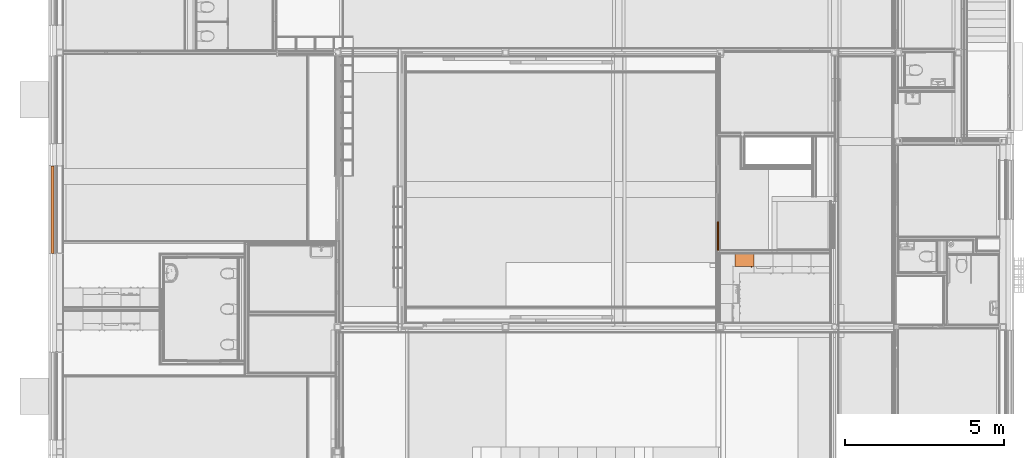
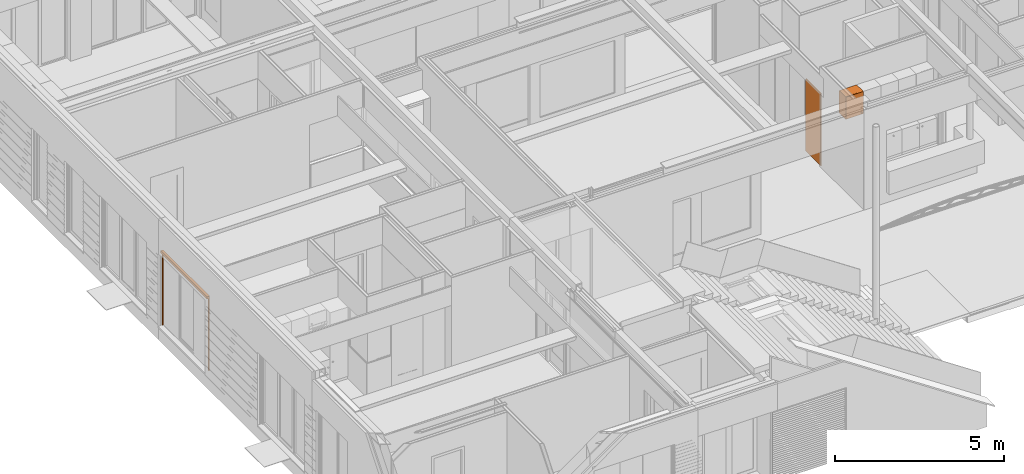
# One storey, part 130 of 165: 3 proxies.
"""IFC2X3 building model written with IfcOpenShell, lengths in millimetres."""

from ifc_helpers import new_model, entity, si_unit, converted_unit, derived_unit, money_unit, direction, frame, origin_with_axes, place, context, subcontext, project, spatial, open_shell, faceted_brep, surface_model, source, transform, mapped, type_object, type_shapes, element, save


model = new_model("IFC2X3")

# Units and contexts
model_context = context("Model", 3, precision=0.01, world=origin_with_axes(), true_north=direction((0.0, 1.0)))
body_context = subcontext(model_context, "Body", "Model", "MODEL_VIEW")
ifc_project = project(units=[si_unit("LENGTHUNIT", "METRE", prefix="MILLI"), si_unit("AREAUNIT", "SQUARE_METRE"), si_unit("VOLUMEUNIT", "CUBIC_METRE"), converted_unit("PLANEANGLEUNIT", "DEGREE", entity("IfcPlaneAngleMeasure", 0.0174532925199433), si_unit("PLANEANGLEUNIT", "RADIAN"), dimensions=[0, 0, 0, 0, 0, 0, 0]), money_unit("EUR"), converted_unit("TIMEUNIT", "Year", entity("IfcTimeMeasure", 31556926.0), si_unit("TIMEUNIT", "SECOND"), dimensions=[0, 0, 1, 0, 0, 0, 0]), si_unit("MASSUNIT", "GRAM", prefix="KILO"), si_unit("THERMODYNAMICTEMPERATUREUNIT", "DEGREE_CELSIUS"), si_unit("LUMINOUSINTENSITYUNIT", "LUMEN"), si_unit("ENERGYUNIT", "JOULE", prefix="MEGA"), derived_unit("THERMALCONDUCTANCEUNIT", [(si_unit("POWERUNIT", "WATT"), 1), (si_unit("LENGTHUNIT", "METRE"), -1), (si_unit("THERMODYNAMICTEMPERATUREUNIT", "KELVIN"), -1)]), derived_unit("SPECIFICHEATCAPACITYUNIT", [(si_unit("ENERGYUNIT", "JOULE"), 1), (si_unit("MASSUNIT", "GRAM", prefix="KILO"), -1), (si_unit("THERMODYNAMICTEMPERATUREUNIT", "KELVIN"), -1)]), derived_unit("MASSDENSITYUNIT", [(si_unit("MASSUNIT", "GRAM", prefix="KILO"), 1), (si_unit("VOLUMEUNIT", "CUBIC_METRE"), -1)])], contexts=[model_context])

# Site, building, storey
site_placement = place(None, origin_with_axes())
site = spatial("IfcSite", under=ifc_project, at=site_placement, Name="Site", CompositionType="ELEMENT")
building_placement = place(site_placement, origin_with_axes())
building = spatial("IfcBuilding", under=site, at=building_placement, Name="Naam gebouw", CompositionType="ELEMENT")
storey_placement = place(building_placement, origin_with_axes())
storey = spatial("IfcBuildingStorey", under=building, at=storey_placement, Name="Begane grond", CompositionType="ELEMENT", Elevation=0.0)

# Proxies
building_element_proxy_type_1 = type_object("IfcBuildingElementProxyType", Name="gevelbekleding", PredefinedType="NOTDEFINED")
shared_shape_1 = source(origin_with_axes(), body_context, "Body", "Brep", [
    faceted_brep([(445.0, 0.0, 0.0), (445.0, -35.0, 0.0), (440.0, -35.0, 0.0), (440.0, 0.0, 0.0), (445.0, 0.0, 2600.0), (445.0, -35.0, 2600.0), (440.0, -35.0, 2600.0), (440.0, 0.0, 2600.0)], [[[0, 1, 2, 3]], [[4, 5, 1, 0]], [[1, 5, 6, 2]], [[3, 2, 6, 7]], [[0, 3, 7, 4]], [[7, 6, 5, 4]]]),
    faceted_brep([(-445.0, 0.0, 0.0), (-445.0, -35.0, 0.0), (-445.0, -35.0, 2600.0), (-445.0, 0.0, 2600.0), (-440.0, 0.0, 0.0), (-440.0, -35.0, 0.0), (-440.0, -35.0, 2600.0), (-440.0, 0.0, 2600.0)], [[[0, 1, 2, 3]], [[4, 5, 1, 0]], [[1, 5, 6, 2]], [[3, 2, 6, 7]], [[0, 3, 7, 4]], [[7, 6, 5, 4]]]),
    faceted_brep([(445.0, 0.0, 0.0), (445.0, -35.0, 0.0), (-445.0, -35.0, 0.0), (-445.0, 0.0, 0.0), (445.0, 0.0, 2600.0), (445.0, -35.0, 2600.0), (-445.0, -35.0, 2600.0), (-445.0, 0.0, 2600.0)], [[[0, 1, 2, 3]], [[4, 5, 1, 0]], [[1, 5, 6, 2]], [[3, 2, 6, 7]], [[0, 3, 7, 4]], [[7, 6, 5, 4]]]),
])
type_shapes(building_element_proxy_type_1, [shared_shape_1])
proxy_1_placement = place(storey_placement, frame((20774.99906281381, 13229.99824205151, 0.0), z_axis=(0.0, 0.0, 1.0), x_axis=(0.0, 1.0, 0.0)))
element("IfcBuildingElementProxy", 1, at=proxy_1_placement, inside=storey, type_object=building_element_proxy_type_1, Name="_-", context=body_context, shape_type="MappedRepresentation", body=[
    mapped(shared_shape_1, transform((445.0000000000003, -35.00000000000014, 0.0))),
])
building_element_proxy_type_2 = type_object("IfcBuildingElementProxyType", Name="Bovenkast recht 26", PredefinedType="NOTDEFINED")
shared_shape_2 = source(origin_with_axes(), body_context, "Body", "Brep", [
    faceted_brep([(18.0, -380.0, 1891.0), (582.0, -380.0, 1891.0), (582.0, -380.0, 1909.0), (18.0, -380.0, 1909.0), (18.0, -18.0, 1891.0), (582.0, -18.0, 1891.0), (582.0, -18.0, 1909.0), (18.0, -18.0, 1909.0)], [[[0, 1, 2, 3]], [[0, 4, 5, 1]], [[1, 5, 6, 2]], [[3, 2, 6, 7]], [[4, 0, 3, 7]], [[5, 4, 7, 6]]]),
    faceted_brep([(531.8176930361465, -398.0, 1570.916221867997), (531.2763114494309, -398.0, 1568.895758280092), (530.3923048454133, -398.0, 1567.0), (529.1925333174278, -398.0, 1565.286548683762), (527.7134513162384, -398.0, 1563.807466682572), (526.0, -398.0, 1562.607695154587), (524.104241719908, -398.0, 1561.723688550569), (522.0837781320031, -398.0, 1561.182306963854), (520.0, -398.0, 1561.0), (517.9162218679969, -398.0, 1561.182306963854), (515.8957582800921, -398.0, 1561.723688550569), (514.0, -398.0, 1562.607695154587), (512.2865486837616, -398.0, 1563.807466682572), (510.8074666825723, -398.0, 1565.286548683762), (509.6076951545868, -398.0, 1567.0), (508.7236885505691, -398.0, 1568.895758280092), (508.1823069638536, -398.0, 1570.916221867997), (508.0, -398.0, 1573.0), (508.1823069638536, -398.0, 1575.083778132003), (508.7236885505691, -398.0, 1577.104241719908), (509.6076951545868, -398.0, 1579.0), (510.8074666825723, -398.0, 1580.713451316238), (512.2865486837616, -398.0, 1582.192533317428), (514.0, -398.0, 1583.392304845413), (515.8957582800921, -398.0, 1584.276311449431), (517.9162218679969, -398.0, 1584.817693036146), (520.0, -398.0, 1585.0), (522.0837781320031, -398.0, 1584.817693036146), (524.104241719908, -398.0, 1584.276311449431), (526.0, -398.0, 1583.392304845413), (527.7134513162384, -398.0, 1582.192533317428), (529.1925333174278, -398.0, 1580.713451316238), (530.3923048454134, -398.0, 1579.0), (531.2763114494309, -398.0, 1577.104241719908), (531.8176930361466, -398.0, 1575.083778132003), (532.0, -398.0, 1573.0), (531.8176930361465, -418.0000000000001, 1570.916221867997), (531.2763114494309, -418.0000000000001, 1568.895758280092), (530.3923048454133, -418.0000000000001, 1567.0), (529.1925333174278, -418.0000000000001, 1565.286548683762), (527.7134513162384, -418.0000000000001, 1563.807466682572), (526.0, -418.0000000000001, 1562.607695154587), (524.104241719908, -418.0000000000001, 1561.723688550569), (522.0837781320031, -418.0000000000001, 1561.182306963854), (520.0, -418.0000000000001, 1561.0), (517.9162218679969, -418.0000000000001, 1561.182306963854), (515.8957582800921, -418.0000000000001, 1561.723688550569), (514.0, -418.0000000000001, 1562.607695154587), (512.2865486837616, -418.0000000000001, 1563.807466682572), (510.8074666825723, -418.0000000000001, 1565.286548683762), (509.6076951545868, -418.0000000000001, 1567.0), (508.7236885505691, -418.0000000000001, 1568.895758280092), (508.1823069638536, -418.0000000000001, 1570.916221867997), (508.0, -418.0000000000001, 1573.0), (508.1823069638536, -418.0000000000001, 1575.083778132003), (508.7236885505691, -418.0000000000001, 1577.104241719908), (509.6076951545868, -418.0000000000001, 1579.0), (510.8074666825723, -418.0000000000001, 1580.713451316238), (512.2865486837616, -418.0000000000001, 1582.192533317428), (514.0, -418.0000000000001, 1583.392304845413), (515.8957582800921, -418.0000000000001, 1584.276311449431), (517.9162218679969, -418.0000000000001, 1584.817693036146), (520.0, -418.0000000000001, 1585.0), (522.0837781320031, -418.0000000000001, 1584.817693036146), (524.104241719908, -418.0000000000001, 1584.276311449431), (526.0, -418.0000000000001, 1583.392304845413), (527.7134513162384, -418.0000000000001, 1582.192533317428), (529.1925333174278, -418.0000000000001, 1580.713451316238), (530.3923048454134, -418.0000000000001, 1579.0), (531.2763114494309, -418.0000000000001, 1577.104241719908), (531.8176930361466, -418.0000000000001, 1575.083778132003), (532.0, -418.0000000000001, 1573.0)], [[[0, 1, 2, 3, 4, 5, 6, 7, 8, 9, 10, 11, 12, 13, 14, 15, 16, 17, 18, 19, 20, 21, 22, 23, 24, 25, 26, 27, 28, 29, 30, 31, 32, 33, 34, 35]], [[1, 0, 36, 37]], [[2, 1, 37, 38]], [[3, 2, 38, 39]], [[4, 3, 39, 40]], [[5, 4, 40, 41]], [[6, 5, 41, 42]], [[7, 6, 42, 43]], [[8, 7, 43, 44]], [[9, 8, 44, 45]], [[10, 9, 45, 46]], [[11, 10, 46, 47]], [[12, 11, 47, 48]], [[13, 12, 48, 49]], [[14, 13, 49, 50]], [[15, 14, 50, 51]], [[16, 15, 51, 52]], [[17, 16, 52, 53]], [[18, 17, 53, 54]], [[19, 18, 54, 55]], [[20, 19, 55, 56]], [[21, 20, 56, 57]], [[22, 21, 57, 58]], [[23, 22, 58, 59]], [[24, 23, 59, 60]], [[25, 24, 60, 61]], [[26, 25, 61, 62]], [[27, 26, 62, 63]], [[28, 27, 63, 64]], [[29, 28, 64, 65]], [[30, 29, 65, 66]], [[31, 30, 66, 67]], [[32, 31, 67, 68]], [[33, 32, 68, 69]], [[34, 33, 69, 70]], [[35, 34, 70, 71]], [[0, 35, 71, 36]], [[36, 71, 70, 69, 68, 67, 66, 65, 64, 63, 62, 61, 60, 59, 58, 57, 56, 55, 54, 53, 52, 51, 50, 49, 48, 47, 46, 45, 44, 43, 42, 41, 40, 39, 38, 37]]]),
    faceted_brep([(543.635386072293, -418.0000000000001, 1568.832443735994), (542.5526228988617, -418.0000000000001, 1564.791516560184), (540.7846096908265, -418.0000000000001, 1561.0), (538.3850666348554, -418.0000000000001, 1557.573097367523), (535.426902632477, -418.0000000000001, 1554.614933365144), (532.0, -418.0000000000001, 1552.215390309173), (528.2084834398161, -418.0000000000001, 1550.447377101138), (524.1675562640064, -418.0000000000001, 1549.364613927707), (520.0, -418.0000000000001, 1549.0), (515.8324437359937, -418.0000000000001, 1549.364613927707), (511.7915165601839, -418.0000000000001, 1550.447377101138), (508.0, -418.0000000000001, 1552.215390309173), (504.5730973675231, -418.0000000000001, 1554.614933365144), (501.6149333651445, -418.0000000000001, 1557.573097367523), (499.2153903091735, -418.0000000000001, 1561.0), (497.4473771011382, -418.0000000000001, 1564.791516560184), (496.364613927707, -418.0000000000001, 1568.832443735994), (496.0000000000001, -418.0000000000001, 1573.0), (496.364613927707, -418.0000000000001, 1577.167556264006), (497.4473771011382, -418.0000000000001, 1581.208483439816), (499.2153903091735, -418.0000000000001, 1585.0), (501.6149333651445, -418.0000000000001, 1588.426902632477), (504.5730973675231, -418.0000000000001, 1591.385066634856), (508.0, -418.0000000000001, 1593.784609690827), (511.7915165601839, -418.0000000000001, 1595.552622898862), (515.8324437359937, -418.0000000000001, 1596.635386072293), (520.0, -418.0000000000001, 1597.0), (524.1675562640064, -418.0000000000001, 1596.635386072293), (528.2084834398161, -418.0000000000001, 1595.552622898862), (532.0, -418.0000000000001, 1593.784609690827), (535.426902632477, -418.0000000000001, 1591.385066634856), (538.3850666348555, -418.0000000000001, 1588.426902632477), (540.7846096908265, -418.0000000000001, 1585.0), (542.5526228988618, -418.0000000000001, 1581.208483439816), (543.635386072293, -418.0000000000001, 1577.167556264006), (544.0, -418.0000000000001, 1573.0), (543.635386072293, -428.0000000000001, 1568.832443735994), (542.5526228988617, -428.0000000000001, 1564.791516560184), (540.7846096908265, -428.0000000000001, 1561.0), (538.3850666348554, -428.0000000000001, 1557.573097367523), (535.426902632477, -428.0000000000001, 1554.614933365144), (532.0, -428.0000000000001, 1552.215390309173), (528.2084834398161, -428.0000000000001, 1550.447377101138), (524.1675562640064, -428.0000000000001, 1549.364613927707), (520.0, -428.0000000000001, 1549.0), (515.8324437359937, -428.0000000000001, 1549.364613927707), (511.7915165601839, -428.0000000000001, 1550.447377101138), (508.0, -428.0000000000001, 1552.215390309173), (504.5730973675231, -428.0000000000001, 1554.614933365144), (501.6149333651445, -428.0000000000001, 1557.573097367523), (499.2153903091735, -428.0000000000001, 1561.0), (497.4473771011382, -428.0000000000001, 1564.791516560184), (496.364613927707, -428.0000000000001, 1568.832443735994), (496.0000000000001, -428.0000000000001, 1573.0), (496.364613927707, -428.0000000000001, 1577.167556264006), (497.4473771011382, -428.0000000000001, 1581.208483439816), (499.2153903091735, -428.0000000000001, 1585.0), (501.6149333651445, -428.0000000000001, 1588.426902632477), (504.5730973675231, -428.0000000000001, 1591.385066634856), (508.0, -428.0000000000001, 1593.784609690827), (511.7915165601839, -428.0000000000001, 1595.552622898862), (515.8324437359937, -428.0000000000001, 1596.635386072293), (520.0, -428.0000000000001, 1597.0), (524.1675562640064, -428.0000000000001, 1596.635386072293), (528.2084834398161, -428.0000000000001, 1595.552622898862), (532.0, -428.0000000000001, 1593.784609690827), (535.426902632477, -428.0000000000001, 1591.385066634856), (538.3850666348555, -428.0000000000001, 1588.426902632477), (540.7846096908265, -428.0000000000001, 1585.0), (542.5526228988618, -428.0000000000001, 1581.208483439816), (543.635386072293, -428.0000000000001, 1577.167556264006), (544.0, -428.0000000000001, 1573.0)], [[[0, 1, 2, 3, 4, 5, 6, 7, 8, 9, 10, 11, 12, 13, 14, 15, 16, 17, 18, 19, 20, 21, 22, 23, 24, 25, 26, 27, 28, 29, 30, 31, 32, 33, 34, 35]], [[1, 0, 36, 37]], [[2, 1, 37, 38]], [[3, 2, 38, 39]], [[4, 3, 39, 40]], [[5, 4, 40, 41]], [[6, 5, 41, 42]], [[7, 6, 42, 43]], [[8, 7, 43, 44]], [[9, 8, 44, 45]], [[10, 9, 45, 46]], [[11, 10, 46, 47]], [[12, 11, 47, 48]], [[13, 12, 48, 49]], [[14, 13, 49, 50]], [[15, 14, 50, 51]], [[16, 15, 51, 52]], [[17, 16, 52, 53]], [[18, 17, 53, 54]], [[19, 18, 54, 55]], [[20, 19, 55, 56]], [[21, 20, 56, 57]], [[22, 21, 57, 58]], [[23, 22, 58, 59]], [[24, 23, 59, 60]], [[25, 24, 60, 61]], [[26, 25, 61, 62]], [[27, 26, 62, 63]], [[28, 27, 63, 64]], [[29, 28, 64, 65]], [[30, 29, 65, 66]], [[31, 30, 66, 67]], [[32, 31, 67, 68]], [[33, 32, 68, 69]], [[34, 33, 69, 70]], [[35, 34, 70, 71]], [[0, 35, 71, 36]], [[36, 71, 70, 69, 68, 67, 66, 65, 64, 63, 62, 61, 60, 59, 58, 57, 56, 55, 54, 53, 52, 51, 50, 49, 48, 47, 46, 45, 44, 43, 42, 41, 40, 39, 38, 37]]]),
    faceted_brep([(1.0, -380.0, 1501.0), (599.0, -380.0, 1501.0), (599.0, -398.0, 1501.0), (1.0, -398.0, 1501.0), (1.0, -379.9999999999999, 2299.0), (599.0, -379.9999999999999, 2299.0), (599.0, -397.9999999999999, 2299.0), (1.0, -397.9999999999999, 2299.0)], [[[0, 1, 2, 3]], [[0, 4, 5, 1]], [[1, 5, 6, 2]], [[3, 2, 6, 7]], [[4, 0, 3, 7]], [[5, 4, 7, 6]]]),
    faceted_brep([(18.0, -380.0, 1500.0), (582.0, -380.0, 1500.0), (582.0, -380.0, 1518.0), (18.0, -380.0, 1518.0), (18.0, 0.0, 1500.0), (582.0, 0.0, 1500.0), (582.0, 0.0, 1518.0), (18.0, 0.0, 1518.0)], [[[0, 1, 2, 3]], [[0, 4, 5, 1]], [[1, 5, 6, 2]], [[3, 2, 6, 7]], [[4, 0, 3, 7]], [[5, 4, 7, 6]]]),
    faceted_brep([(18.0, -380.0, 2282.0), (582.0, -380.0, 2282.0), (582.0, -380.0, 2300.0), (18.0, -380.0, 2300.0), (18.0, 0.0, 2282.0), (582.0, 0.0, 2282.0), (582.0, 0.0, 2300.0), (18.0, 0.0, 2300.0)], [[[0, 1, 2, 3]], [[0, 4, 5, 1]], [[1, 5, 6, 2]], [[3, 2, 6, 7]], [[4, 0, 3, 7]], [[5, 4, 7, 6]]]),
    faceted_brep([(0.0, 0.0, 1500.0), (0.0, -380.0, 1500.0), (0.0, -380.0, 2300.0), (0.0, 0.0, 2300.0), (18.0, 0.0, 1500.0), (18.0, -380.0, 1500.0), (18.0, -380.0, 2300.0), (18.0, 0.0, 2300.0)], [[[0, 1, 2, 3]], [[0, 4, 5, 1]], [[1, 5, 6, 2]], [[3, 2, 6, 7]], [[4, 0, 3, 7]], [[5, 4, 7, 6]]]),
    faceted_brep([(600.0, -380.0, 1500.0), (600.0, 0.0, 1500.0), (600.0, 0.0, 2300.0), (600.0, -380.0, 2300.0), (582.0, -380.0, 1500.0), (582.0, 0.0, 1500.0), (582.0, 0.0, 2300.0), (582.0, -380.0, 2300.0)], [[[0, 1, 2, 3]], [[0, 4, 5, 1]], [[1, 5, 6, 2]], [[3, 2, 6, 7]], [[4, 0, 3, 7]], [[5, 4, 7, 6]]]),
    faceted_brep([(582.0, -9.0, 1518.0), (18.00000000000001, -9.0, 1518.0), (18.00000000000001, -9.0, 2282.0), (582.0, -9.0, 2282.0), (582.0, -18.0, 1518.0), (18.00000000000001, -18.0, 1518.0), (18.00000000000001, -18.0, 2282.0), (582.0, -18.0, 2282.0)], [[[0, 1, 2, 3]], [[0, 4, 5, 1]], [[1, 5, 6, 2]], [[3, 2, 6, 7]], [[4, 0, 3, 7]], [[5, 4, 7, 6]]]),
])
type_shapes(building_element_proxy_type_2, [shared_shape_2])
proxy_2_placement = place(storey_placement, frame((21364.99903999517, 13104.99770206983, 300.0000000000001), z_axis=(0.0, 0.0, 1.0), x_axis=(1.0, 0.0, 0.0)))
element("IfcBuildingElementProxy", 2, at=proxy_2_placement, inside=storey, type_object=building_element_proxy_type_2, Name="_Leeg", context=body_context, shape_type="MappedRepresentation", body=[
    mapped(shared_shape_2, transform((0.0, 0.0, 0.0))),
])
building_element_proxy_type_3 = type_object("IfcBuildingElementProxyType", Name="Screen 26 KM", PredefinedType="NOTDEFINED")
shared_shape_3 = source(origin_with_axes(), body_context, "Body", "SurfaceModel", [
    faceted_brep([(0.0, 0.0, 0.0), (0.0, -30.0, 0.0), (0.0, -30.0, 2615.0), (0.0, 0.0, 2615.0), (40.0, 0.0, 0.0), (40.0, -4.999999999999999, 0.0), (37.0, -4.999999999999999, 0.0), (37.0, -3.0, 0.0), (3.0, -3.0, 0.0), (3.0, -27.0, 0.0), (37.0, -27.0, 0.0), (37.0, -25.0, 0.0), (40.0, -25.0, 0.0), (40.0, -30.0, 0.0), (40.0, -30.0, 2615.0), (40.0, -25.0, 2615.0), (37.0, -25.0, 2615.0), (37.0, -27.0, 2615.0), (3.0, -27.0, 2615.0), (3.0, -3.0, 2615.0), (37.0, -3.0, 2615.0), (37.0, -4.999999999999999, 2615.0), (40.0, -4.999999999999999, 2615.0), (40.0, 0.0, 2615.0)], [[[0, 1, 2, 3]], [[0, 4, 5, 6, 7, 8, 9, 10, 11, 12, 13, 1]], [[1, 13, 14, 2]], [[3, 2, 14, 15, 16, 17, 18, 19, 20, 21, 22, 23]], [[4, 0, 3, 23]], [[5, 4, 23, 22]], [[6, 5, 22, 21]], [[7, 6, 21, 20]], [[8, 7, 20, 19]], [[9, 8, 19, 18]], [[10, 9, 18, 17]], [[11, 10, 17, 16]], [[12, 11, 16, 15]], [[13, 12, 15, 14]]]),
    faceted_brep([(2750.0, 0.0, 0.0), (2750.0, 0.0, 2615.0), (2750.0, -30.0, 2615.0), (2750.0, -30.0, 0.0), (2710.0, 0.0, 0.0), (2710.0, 0.0, 2615.0), (2710.0, -4.999999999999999, 2615.0), (2713.0, -4.999999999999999, 2615.0), (2713.0, -3.0, 2615.0), (2747.0, -3.0, 2615.0), (2747.0, -27.0, 2615.0), (2713.0, -27.0, 2615.0), (2713.0, -25.0, 2615.0), (2710.0, -25.0, 2615.0), (2710.0, -30.0, 2615.0), (2710.0, -30.0, 0.0), (2710.0, -25.0, 0.0), (2713.0, -25.0, 0.0), (2713.0, -27.0, 0.0), (2747.0, -27.0, 0.0), (2747.0, -3.0, 0.0), (2713.0, -3.0, 0.0), (2713.0, -4.999999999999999, 0.0), (2710.0, -4.999999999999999, 0.0)], [[[0, 1, 2, 3]], [[4, 5, 1, 0]], [[1, 5, 6, 7, 8, 9, 10, 11, 12, 13, 14, 2]], [[3, 2, 14, 15]], [[0, 3, 15, 16, 17, 18, 19, 20, 21, 22, 23, 4]], [[23, 6, 5, 4]], [[22, 7, 6, 23]], [[21, 8, 7, 22]], [[20, 9, 8, 21]], [[19, 10, 9, 20]], [[18, 11, 10, 19]], [[17, 12, 11, 18]], [[16, 13, 12, 17]], [[15, 14, 13, 16]]]),
    surface_model("IfcShellBasedSurfaceModel", [(0.0, 0.0, 2700.0), (0.0, 0.0, 2615.0), (0.0, -85.0, 2615.0), (0.0, -85.0, 2700.0)], [open_shell([[[0, 1, 2, 3]]])]),
    surface_model("IfcShellBasedSurfaceModel", [(0.01, 0.0, 2700.0), (0.009999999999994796, -85.0, 2700.0), (2749.99, -85.00000000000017, 2700.0), (2749.99, 0.0, 2700.0), (0.01000000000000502, 0.0, 2618.0), (0.01000000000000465, -6.0, 2618.0), (0.01000000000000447, -6.0, 2621.0), (0.01000000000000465, -3.0, 2621.0), (0.01, -3.0, 2697.0), (0.009999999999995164, -82.0, 2697.0), (0.01, -82.0, 2618.0), (0.01000000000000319, -30.0, 2618.0), (0.01000000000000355, -30.0, 2612.0), (0.01000000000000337, -33.0, 2612.0), (0.01000000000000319, -33.0, 2615.0), (0.01, -85.0, 2615.0), (2749.99, -85.00000000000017, 2615.0), (2749.99, -33.00000000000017, 2615.0), (2749.99, -33.00000000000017, 2612.0), (2749.99, -30.00000000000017, 2612.0), (2749.99, -30.00000000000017, 2618.0), (2749.99, -82.00000000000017, 2618.0), (2749.99, -82.00000000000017, 2697.0), (2749.99, -3.000000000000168, 2697.0), (2749.99, -3.000000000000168, 2621.0), (2749.99, -6.000000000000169, 2621.0), (2749.99, -6.000000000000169, 2618.0), (2749.99, 0.0, 2618.0)], [open_shell([[[0, 1, 2, 3]], [[0, 4, 5, 6, 7, 8, 9, 10, 11, 12, 13, 14, 15, 1]], [[1, 15, 16, 2]], [[3, 2, 16, 17, 18, 19, 20, 21, 22, 23, 24, 25, 26, 27]], [[4, 0, 3, 27]], [[13, 12, 19, 18]], [[14, 13, 18, 17]], [[15, 14, 17, 16]]])]),
    surface_model("IfcShellBasedSurfaceModel", [(2749.99, 0.0, 2700.0), (2749.99, 0.0, 2615.0), (2749.99, -85.00000000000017, 2615.0), (2749.99, -85.00000000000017, 2700.0)], [open_shell([[[0, 1, 2, 3]]])]),
])
type_shapes(building_element_proxy_type_3, [shared_shape_3])
proxy_3_placement = place(storey_placement, frame((-81.99999999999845, 15874.9998112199, -8.0), z_axis=(0.0, 0.0, 1.0), x_axis=(0.0, -1.0, 0.0)))
element("IfcBuildingElementProxy", 3, at=proxy_3_placement, inside=storey, type_object=building_element_proxy_type_3, Name="_Object-x", context=body_context, shape_type="MappedRepresentation", body=[
    mapped(shared_shape_3, transform((0.0, 0.0, 0.0))),
])

save(model, "model.ifc")
